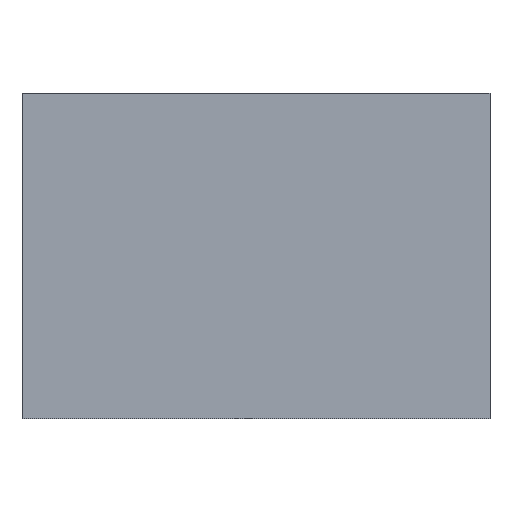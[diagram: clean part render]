
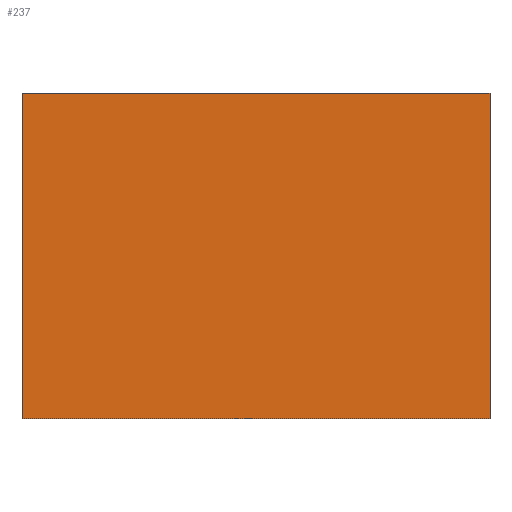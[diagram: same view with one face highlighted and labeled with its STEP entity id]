
A CAD part, front view. The second image highlights one B-rep face of the part: STEP entity #237.
In plain terms, the highlighted planar face has unit normal (0, -1, 0).
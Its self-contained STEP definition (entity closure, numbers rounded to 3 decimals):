
#237=ADVANCED_FACE('',(#425),#427,.T.);
#425=FACE_BOUND('',#426,.T.);
#426=EDGE_LOOP('',(#484,#485,#486,#487));
#427=PLANE('',#428);
#428=AXIS2_PLACEMENT_3D('',#429,#430,#431);
#429=CARTESIAN_POINT('',(23.85,0.,-16.6));
#430=DIRECTION('',(0.,-1.,0.));
#431=DIRECTION('',(0.,0.,-1.));
#484=ORIENTED_EDGE('',*,*,#508,.F.);
#485=ORIENTED_EDGE('',*,*,#515,.F.);
#486=ORIENTED_EDGE('',*,*,#513,.F.);
#487=ORIENTED_EDGE('',*,*,#511,.F.);
#508=EDGE_CURVE('',#556,#557,#558,.T.);
#511=EDGE_CURVE('',#557,#561,#562,.T.);
#513=EDGE_CURVE('',#561,#564,#565,.T.);
#515=EDGE_CURVE('',#564,#556,#567,.T.);
#556=VERTEX_POINT('',#664);
#557=VERTEX_POINT('',#665);
#558=LINE('',#666,#667);
#561=VERTEX_POINT('',#675);
#562=LINE('',#676,#677);
#564=VERTEX_POINT('',#682);
#565=LINE('',#683,#684);
#567=LINE('',#689,#690);
#664=CARTESIAN_POINT('',(0.,0.,0.));
#665=CARTESIAN_POINT('',(47.7,0.,0.));
#666=CARTESIAN_POINT('',(0.,0.,0.));
#667=VECTOR('',#668,1.);
#668=DIRECTION('',(1.,0.,0.));
#675=CARTESIAN_POINT('',(47.7,0.,-33.2));
#676=CARTESIAN_POINT('',(47.7,0.,0.));
#677=VECTOR('',#678,1.);
#678=DIRECTION('',(0.,0.,-1.));
#682=CARTESIAN_POINT('',(0.,0.,-33.2));
#683=CARTESIAN_POINT('',(47.7,0.,-33.2));
#684=VECTOR('',#685,1.);
#685=DIRECTION('',(-1.,0.,0.));
#689=CARTESIAN_POINT('',(0.,0.,-33.2));
#690=VECTOR('',#691,1.);
#691=DIRECTION('',(0.,0.,1.));
